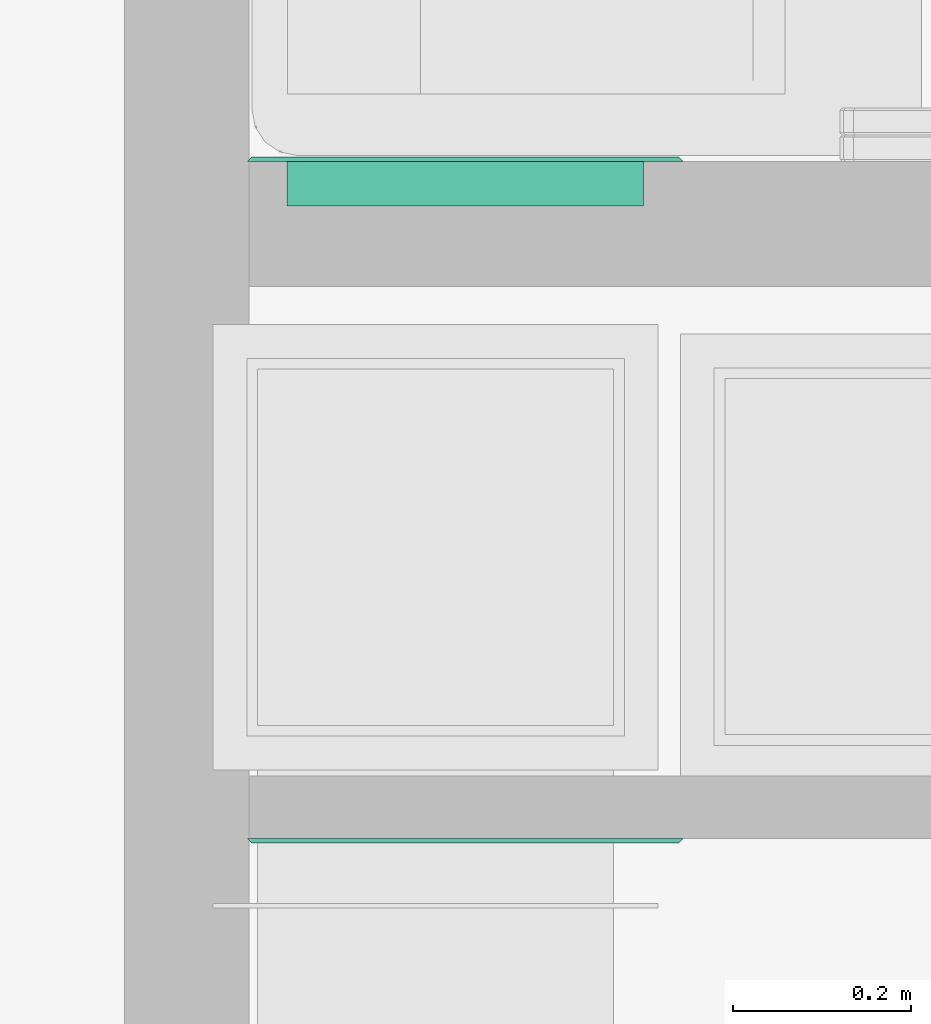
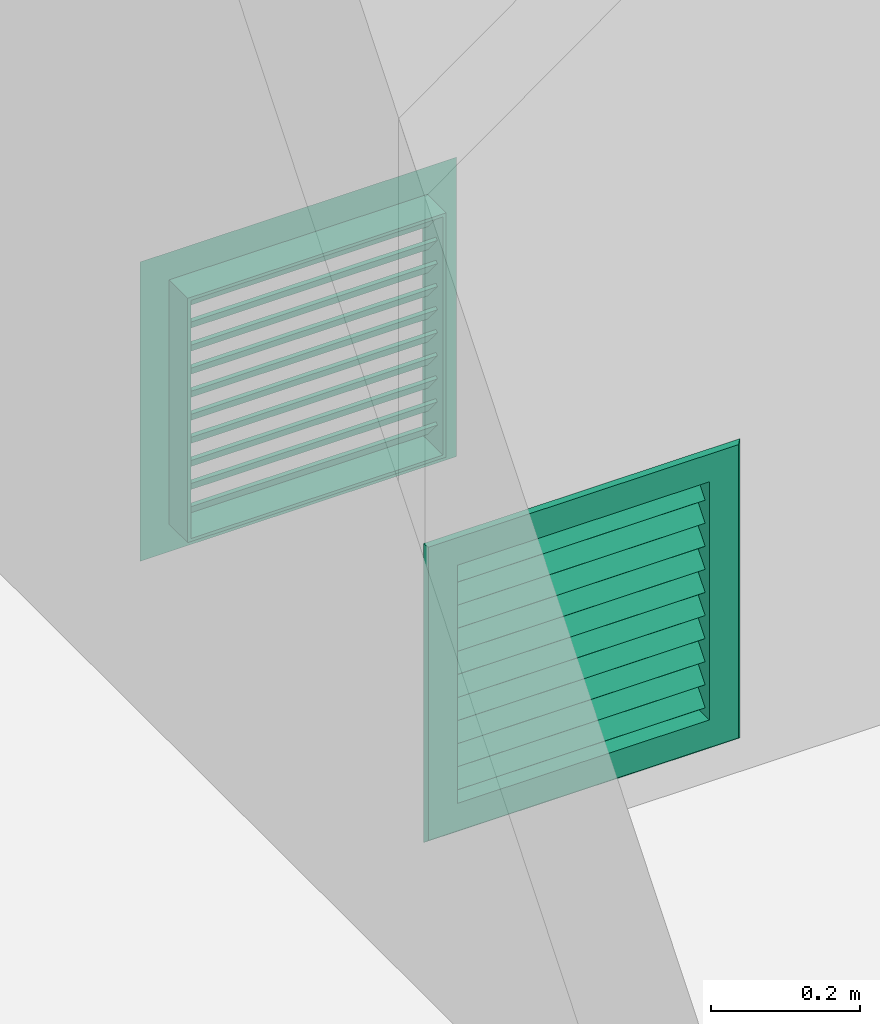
# One storey, part 21 of 31: 2 flow terminals.
"""IFC2X3 building model written with IfcOpenShell, lengths in millimetres."""

from ifc_helpers import new_model, entity, si_unit, converted_unit, derived_unit, direction, frame, origin, place, context, subcontext, project, spatial, faceted_brep, source, transform, mapped, material, material_list, type_object, type_shapes, element, save


model = new_model("IFC2X3")

# Units and contexts
model_context = context("Model", 3, precision=0.01, world=origin(), true_north=direction((6.123031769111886e-17, 1.0)))
body_context = subcontext(model_context, "Body", "Model", "MODEL_VIEW")
ifc_project = project(units=[si_unit("LENGTHUNIT", "METRE", prefix="MILLI"), si_unit("AREAUNIT", "SQUARE_METRE"), si_unit("VOLUMEUNIT", "CUBIC_METRE"), converted_unit("PLANEANGLEUNIT", "DEGREE", entity("IfcRatioMeasure", 0.017453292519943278), si_unit("PLANEANGLEUNIT", "RADIAN"), dimensions=[0, 0, 0, 0, 0, 0, 0]), si_unit("MASSUNIT", "GRAM", prefix="KILO"), derived_unit("MASSDENSITYUNIT", [(si_unit("MASSUNIT", "GRAM", prefix="KILO"), 1), (si_unit("LENGTHUNIT", "METRE"), -3)]), derived_unit("MOMENTOFINERTIAUNIT", [(si_unit("LENGTHUNIT", "METRE"), 4)]), si_unit("TIMEUNIT", "SECOND"), si_unit("FREQUENCYUNIT", "HERTZ"), si_unit("THERMODYNAMICTEMPERATUREUNIT", "DEGREE_CELSIUS"), derived_unit("THERMALTRANSMITTANCEUNIT", [(si_unit("MASSUNIT", "GRAM", prefix="KILO"), 1), (si_unit("THERMODYNAMICTEMPERATUREUNIT", "KELVIN"), -1), (si_unit("TIMEUNIT", "SECOND"), -3)]), derived_unit("VOLUMETRICFLOWRATEUNIT", [(si_unit("LENGTHUNIT", "METRE"), 3), (si_unit("TIMEUNIT", "SECOND"), -1)]), derived_unit("MASSFLOWRATEUNIT", [(si_unit("MASSUNIT", "GRAM", prefix="KILO"), 1), (si_unit("TIMEUNIT", "SECOND"), -1)]), derived_unit("ROTATIONALFREQUENCYUNIT", [(si_unit("TIMEUNIT", "SECOND"), -1)]), si_unit("ELECTRICCURRENTUNIT", "AMPERE"), si_unit("ELECTRICVOLTAGEUNIT", "VOLT"), si_unit("POWERUNIT", "WATT"), si_unit("FORCEUNIT", "NEWTON", prefix="KILO"), si_unit("ILLUMINANCEUNIT", "LUX"), si_unit("LUMINOUSFLUXUNIT", "LUMEN"), si_unit("LUMINOUSINTENSITYUNIT", "CANDELA"), derived_unit("USERDEFINED", [(si_unit("MASSUNIT", "GRAM", prefix="KILO"), -1), (si_unit("LENGTHUNIT", "METRE"), -2), (si_unit("TIMEUNIT", "SECOND"), 3), (si_unit("LUMINOUSFLUXUNIT", "LUMEN"), 1)]), derived_unit("SOUNDPOWERUNIT", [(si_unit("MASSUNIT", "GRAM", prefix="KILO"), 1), (si_unit("LENGTHUNIT", "METRE"), 2), (si_unit("TIMEUNIT", "SECOND"), -3)]), derived_unit("SOUNDPRESSUREUNIT", [(si_unit("MASSUNIT", "GRAM", prefix="KILO"), 1), (si_unit("LENGTHUNIT", "METRE"), -1), (si_unit("TIMEUNIT", "SECOND"), -2)]), derived_unit("LINEARVELOCITYUNIT", [(si_unit("LENGTHUNIT", "METRE"), 1), (si_unit("TIMEUNIT", "SECOND"), -1)]), si_unit("PRESSUREUNIT", "PASCAL"), derived_unit("USERDEFINED", [(si_unit("LENGTHUNIT", "METRE"), -2), (si_unit("MASSUNIT", "GRAM", prefix="KILO"), 1), (si_unit("TIMEUNIT", "SECOND"), -2)]), derived_unit("LINEARFORCEUNIT", [(si_unit("MASSUNIT", "GRAM", prefix="KILO"), 1), (si_unit("LENGTHUNIT", "METRE"), 1), (si_unit("TIMEUNIT", "SECOND"), -2), (si_unit("LENGTHUNIT", "METRE"), -1)]), derived_unit("PLANARFORCEUNIT", [(si_unit("MASSUNIT", "GRAM", prefix="KILO"), 1), (si_unit("LENGTHUNIT", "METRE"), 1), (si_unit("TIMEUNIT", "SECOND"), -2), (si_unit("LENGTHUNIT", "METRE"), -2)])], contexts=[model_context])

# Site, building, storey
site_placement = place(None, origin())
site = spatial("IfcSite", under=ifc_project, at=site_placement, Name="Default", CompositionType="ELEMENT")
building_placement = place(site_placement, origin())
building = spatial("IfcBuilding", under=site, at=building_placement, CompositionType="ELEMENT")
storey_placement = place(building_placement, frame((0.0, 0.0, 3880.0)))
storey = spatial("IfcBuildingStorey", under=building, at=storey_placement, Name="Niveau 1", CompositionType="ELEMENT", Elevation=3880.0)

# Flow terminals
ifc_material = material(Name="Acier - Galvanisé")
ifc_material_list_1 = material_list([ifc_material, ifc_material, ifc_material, ifc_material, ifc_material, ifc_material, ifc_material, ifc_material, ifc_material, ifc_material, ifc_material])
ifc_material_list_2 = material_list([ifc_material, ifc_material, ifc_material, ifc_material, ifc_material, ifc_material, ifc_material, ifc_material, ifc_material, ifc_material, ifc_material])
air_terminal_type_1 = type_object("IfcAirTerminalType", Name="Grille air neuf:400x400", PredefinedType="NOTDEFINED", material=ifc_material_list_2)
shared_shape_1 = source(origin(), body_context, "Body", "Brep", [
    faceted_brep([(440.11775653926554, 14.288495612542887, 128.53731204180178), (440.11775653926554, 40.0, 97.8955343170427), (440.11775653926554, 43.83022221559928, 101.10947236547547), (440.11775653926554, 18.11871782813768, 131.75125009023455), (50.117756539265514, 14.288495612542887, 128.53731204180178), (50.117756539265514, 18.11871782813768, 131.75125009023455), (50.117756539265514, 43.83022221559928, 101.10947236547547), (50.117756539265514, 40.0, 97.8955343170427)], [[[0, 1, 2, 3]], [[4, 5, 6, 7]], [[1, 0, 4, 7]], [[2, 1, 7, 6]], [[3, 2, 6, 5]], [[0, 3, 5, 4]]]),
    faceted_brep([(440.11775653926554, 14.288495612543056, 166.31508981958), (440.11775653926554, 40.0, 135.67331209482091), (440.11775653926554, 43.83022221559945, 138.88725014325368), (440.11775653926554, 18.118717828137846, 169.52902786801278), (50.117756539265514, 14.288495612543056, 166.31508981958), (50.117756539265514, 18.118717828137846, 169.52902786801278), (50.117756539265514, 43.83022221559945, 138.88725014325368), (50.117756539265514, 40.0, 135.67331209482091)], [[[0, 1, 2, 3]], [[4, 5, 6, 7]], [[1, 0, 4, 7]], [[2, 1, 7, 6]], [[3, 2, 6, 5]], [[0, 3, 5, 4]]]),
    faceted_brep([(440.11775653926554, 14.288495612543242, 204.0928675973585), (440.11775653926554, 40.0, 173.4510898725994), (440.11775653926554, 43.83022221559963, 176.66502792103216), (440.11775653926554, 18.118717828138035, 207.30680564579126), (50.117756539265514, 14.288495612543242, 204.0928675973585), (50.117756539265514, 18.118717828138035, 207.30680564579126), (50.117756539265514, 43.83022221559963, 176.66502792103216), (50.117756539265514, 40.0, 173.4510898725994)], [[[0, 1, 2, 3]], [[4, 5, 6, 7]], [[1, 0, 4, 7]], [[2, 1, 7, 6]], [[3, 2, 6, 5]], [[0, 3, 5, 4]]]),
    faceted_brep([(440.11775653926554, 14.288495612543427, 241.8706453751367), (440.11775653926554, 40.0, 211.22886765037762), (440.11775653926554, 43.83022221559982, 214.4428056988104), (440.11775653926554, 18.11871782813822, 245.08458342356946), (50.117756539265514, 14.288495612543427, 241.8706453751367), (50.117756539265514, 18.11871782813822, 245.08458342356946), (50.117756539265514, 43.83022221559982, 214.4428056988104), (50.117756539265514, 40.0, 211.22886765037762)], [[[0, 1, 2, 3]], [[4, 5, 6, 7]], [[1, 0, 4, 7]], [[2, 1, 7, 6]], [[3, 2, 6, 5]], [[0, 3, 5, 4]]]),
    faceted_brep([(440.11775653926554, 14.288495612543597, 279.6484231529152), (440.11775653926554, 40.0, 249.0066454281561), (440.11775653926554, 43.83022221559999, 252.22058347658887), (440.11775653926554, 18.11871782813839, 282.86236120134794), (50.117756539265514, 14.288495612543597, 279.6484231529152), (50.117756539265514, 18.11871782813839, 282.86236120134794), (50.117756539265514, 43.83022221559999, 252.22058347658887), (50.117756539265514, 40.0, 249.0066454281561)], [[[0, 1, 2, 3]], [[4, 5, 6, 7]], [[1, 0, 4, 7]], [[2, 1, 7, 6]], [[3, 2, 6, 5]], [[0, 3, 5, 4]]]),
    faceted_brep([(440.11775653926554, 14.288495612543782, 317.42620093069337), (440.11775653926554, 40.0, 286.78442320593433), (440.11775653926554, 43.83022221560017, 289.99836125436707), (440.11775653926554, 18.118717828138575, 320.64013897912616), (50.117756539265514, 14.288495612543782, 317.42620093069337), (50.117756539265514, 18.118717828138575, 320.64013897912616), (50.117756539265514, 43.83022221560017, 289.99836125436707), (50.117756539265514, 40.0, 286.78442320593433)], [[[0, 1, 2, 3]], [[4, 5, 6, 7]], [[1, 0, 4, 7]], [[2, 1, 7, 6]], [[3, 2, 6, 5]], [[0, 3, 5, 4]]]),
    faceted_brep([(440.11775653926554, 14.288495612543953, 355.2039787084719), (440.11775653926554, 40.0, 324.5622009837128), (440.11775653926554, 43.830222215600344, 327.7761390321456), (440.11775653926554, 18.118717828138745, 358.4179167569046), (50.117756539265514, 14.288495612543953, 355.2039787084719), (50.117756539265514, 18.118717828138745, 358.4179167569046), (50.117756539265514, 43.830222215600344, 327.7761390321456), (50.117756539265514, 40.0, 324.5622009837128)], [[[0, 1, 2, 3]], [[4, 5, 6, 7]], [[1, 0, 4, 7]], [[2, 1, 7, 6]], [[3, 2, 6, 5]], [[0, 3, 5, 4]]]),
    faceted_brep([(440.11775653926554, 14.28849561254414, 392.9817564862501), (440.11775653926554, 40.0, 362.339978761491), (440.11775653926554, 43.83022221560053, 365.5539168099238), (440.11775653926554, 18.11871782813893, 396.19569453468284), (50.117756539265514, 14.28849561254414, 392.9817564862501), (50.117756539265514, 18.11871782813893, 396.19569453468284), (50.117756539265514, 43.83022221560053, 365.5539168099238), (50.117756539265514, 40.0, 362.339978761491)], [[[0, 1, 2, 3]], [[4, 5, 6, 7]], [[1, 0, 4, 7]], [[2, 1, 7, 6]], [[3, 2, 6, 5]], [[0, 3, 5, 4]]]),
    faceted_brep([(440.11775653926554, 14.288495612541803, 90.7595342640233), (440.11775653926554, 40.0, 60.11775653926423), (440.11775653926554, 43.83022221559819, 63.33169458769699), (440.11775653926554, 18.118717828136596, 93.97347231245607), (50.117756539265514, 14.288495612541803, 90.7595342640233), (50.117756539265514, 18.118717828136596, 93.97347231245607), (50.117756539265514, 43.83022221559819, 63.33169458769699), (50.117756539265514, 40.0, 60.11775653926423)], [[[0, 1, 2, 3]], [[4, 5, 6, 7]], [[1, 0, 4, 7]], [[2, 1, 7, 6]], [[3, 2, 6, 5]], [[0, 3, 5, 4]]]),
    faceted_brep([(440.11775653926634, 14.288495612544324, 430.75953426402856), (440.11775653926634, 40.0, 400.1177565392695), (440.11775653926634, 43.83022221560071, 403.33169458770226), (440.11775653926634, 18.118717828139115, 433.97347231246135), (50.11775653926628, 14.288495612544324, 430.75953426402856), (50.11775653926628, 18.118717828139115, 433.97347231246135), (50.11775653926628, 43.83022221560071, 403.33169458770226), (50.11775653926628, 40.0, 400.1177565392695)], [[[0, 1, 2, 3]], [[4, 5, 6, 7]], [[1, 0, 4, 7]], [[2, 1, 7, 6]], [[3, 2, 6, 5]], [[0, 3, 5, 4]]]),
    faceted_brep([(45.11775653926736, 0.0, 445.11775653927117), (45.11775653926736, 50.0, 445.11775653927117), (45.11775653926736, 50.0, 45.11775653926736), (45.11775653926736, 0.0, 45.11775653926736), (50.11775653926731, 55.0, 440.1177565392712), (50.11775653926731, 0.0, 440.1177565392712), (50.11775653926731, 0.0, 50.11775653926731), (50.11775653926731, 55.0, 50.11775653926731), (0.0, 50.0, 490.23551307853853), (5.0, 55.0, 485.2355130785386), (5.0, 55.0, 5.0), (0.0, 50.0, 0.0), (445.1177565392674, 50.0, 45.11775653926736), (445.1177565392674, 0.0, 45.11775653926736), (440.1177565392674, 0.0, 50.11775653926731), (440.1177565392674, 55.0, 50.11775653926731), (485.23551307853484, 55.0, 5.0), (490.2355130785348, 50.0, 0.0), (445.1177565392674, 50.0, 445.11775653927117), (445.1177565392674, 0.0, 445.11775653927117), (440.1177565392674, 0.0, 440.1177565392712), (440.1177565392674, 55.0, 440.1177565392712), (485.23551307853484, 55.0, 485.2355130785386), (490.2355130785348, 50.0, 490.23551307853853)], [[[0, 1, 2, 3]], [[4, 5, 6, 7]], [[8, 9, 10, 11]], [[3, 2, 12, 13]], [[7, 6, 14, 15]], [[11, 10, 16, 17]], [[13, 12, 18, 19]], [[15, 14, 20, 21]], [[17, 16, 22, 23]], [[19, 18, 1, 0]], [[3, 13, 19, 0], [5, 20, 14, 6]], [[21, 20, 5, 4]], [[7, 15, 21, 4], [9, 22, 16, 10]], [[23, 22, 9, 8]], [[11, 17, 23, 8], [1, 18, 12, 2]]], outer=[[True], [True], [True], [True], [True], [True], [True], [True], [True], [True], [True, False], [True], [False, True], [True], [True, False]]),
])
type_shapes(air_terminal_type_1, [shared_shape_1])
flow_terminal_1_placement = place(storey_placement, frame((-6472.328168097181, -14180.0, 54.88224346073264)))
element("IfcFlowTerminal", 1, at=flow_terminal_1_placement, inside=storey, type_object=air_terminal_type_1, material=ifc_material_list_1, Name="Grille air neuf:400x400", ObjectType="Grille air neuf:400x400", context=body_context, shape_type="MappedRepresentation", body=[
    mapped(shared_shape_1, transform((0.0, 0.0, 0.0), scale=1.0)),
])
ifc_material_list_3 = material_list([ifc_material, ifc_material, ifc_material, ifc_material, ifc_material, ifc_material, ifc_material, ifc_material, ifc_material, ifc_material, ifc_material])
ifc_material_list_4 = material_list([ifc_material, ifc_material, ifc_material, ifc_material, ifc_material, ifc_material, ifc_material, ifc_material, ifc_material, ifc_material, ifc_material])
air_terminal_type_2 = type_object("IfcAirTerminalType", Name="Grille air neuf:400x400", PredefinedType="NOTDEFINED", material=ifc_material_list_4)
shared_shape_2 = source(origin(), body_context, "Body", "Brep", [
    faceted_brep([(440.1177565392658, 14.288495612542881, 128.53731204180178), (440.1177565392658, 40.0, 97.8955343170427), (440.1177565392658, 43.83022221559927, 101.10947236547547), (440.1177565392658, 18.118717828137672, 131.75125009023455), (50.11775653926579, 14.288495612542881, 128.53731204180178), (50.11775653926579, 18.118717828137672, 131.75125009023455), (50.11775653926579, 43.83022221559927, 101.10947236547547), (50.11775653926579, 40.0, 97.8955343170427)], [[[0, 1, 2, 3]], [[4, 5, 6, 7]], [[1, 0, 4, 7]], [[2, 1, 7, 6]], [[3, 2, 6, 5]], [[0, 3, 5, 4]]]),
    faceted_brep([(440.1177565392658, 14.288495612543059, 166.31508981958), (440.1177565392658, 40.0, 135.67331209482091), (440.1177565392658, 43.83022221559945, 138.88725014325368), (440.1177565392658, 18.11871782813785, 169.52902786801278), (50.11775653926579, 14.288495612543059, 166.31508981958), (50.11775653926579, 18.11871782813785, 169.52902786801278), (50.11775653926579, 43.83022221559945, 138.88725014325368), (50.11775653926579, 40.0, 135.67331209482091)], [[[0, 1, 2, 3]], [[4, 5, 6, 7]], [[1, 0, 4, 7]], [[2, 1, 7, 6]], [[3, 2, 6, 5]], [[0, 3, 5, 4]]]),
    faceted_brep([(440.1177565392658, 14.288495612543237, 204.0928675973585), (440.1177565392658, 40.0, 173.4510898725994), (440.1177565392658, 43.830222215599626, 176.66502792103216), (440.1177565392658, 18.118717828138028, 207.30680564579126), (50.11775653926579, 14.288495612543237, 204.0928675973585), (50.11775653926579, 18.118717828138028, 207.30680564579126), (50.11775653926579, 43.830222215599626, 176.66502792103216), (50.11775653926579, 40.0, 173.4510898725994)], [[[0, 1, 2, 3]], [[4, 5, 6, 7]], [[1, 0, 4, 7]], [[2, 1, 7, 6]], [[3, 2, 6, 5]], [[0, 3, 5, 4]]]),
    faceted_brep([(440.1177565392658, 14.288495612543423, 241.8706453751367), (440.1177565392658, 40.0, 211.22886765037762), (440.1177565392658, 43.83022221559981, 214.4428056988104), (440.1177565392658, 18.118717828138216, 245.08458342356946), (50.11775653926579, 14.288495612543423, 241.8706453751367), (50.11775653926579, 18.118717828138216, 245.08458342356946), (50.11775653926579, 43.83022221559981, 214.4428056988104), (50.11775653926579, 40.0, 211.22886765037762)], [[[0, 1, 2, 3]], [[4, 5, 6, 7]], [[1, 0, 4, 7]], [[2, 1, 7, 6]], [[3, 2, 6, 5]], [[0, 3, 5, 4]]]),
    faceted_brep([(440.1177565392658, 14.288495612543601, 279.6484231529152), (440.1177565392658, 40.0, 249.0066454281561), (440.1177565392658, 43.83022221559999, 252.22058347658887), (440.1177565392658, 18.118717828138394, 282.86236120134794), (50.11775653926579, 14.288495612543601, 279.6484231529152), (50.11775653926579, 18.118717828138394, 282.86236120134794), (50.11775653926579, 43.83022221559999, 252.22058347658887), (50.11775653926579, 40.0, 249.0066454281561)], [[[0, 1, 2, 3]], [[4, 5, 6, 7]], [[1, 0, 4, 7]], [[2, 1, 7, 6]], [[3, 2, 6, 5]], [[0, 3, 5, 4]]]),
    faceted_brep([(440.1177565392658, 14.288495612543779, 317.42620093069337), (440.1177565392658, 40.0, 286.78442320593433), (440.1177565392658, 43.830222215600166, 289.99836125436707), (440.1177565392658, 18.11871782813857, 320.64013897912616), (50.11775653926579, 14.288495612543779, 317.42620093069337), (50.11775653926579, 18.11871782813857, 320.64013897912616), (50.11775653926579, 43.830222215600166, 289.99836125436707), (50.11775653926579, 40.0, 286.78442320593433)], [[[0, 1, 2, 3]], [[4, 5, 6, 7]], [[1, 0, 4, 7]], [[2, 1, 7, 6]], [[3, 2, 6, 5]], [[0, 3, 5, 4]]]),
    faceted_brep([(440.1177565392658, 14.288495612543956, 355.2039787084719), (440.1177565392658, 40.0, 324.5622009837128), (440.1177565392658, 43.830222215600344, 327.7761390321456), (440.1177565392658, 18.11871782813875, 358.4179167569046), (50.11775653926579, 14.288495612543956, 355.2039787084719), (50.11775653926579, 18.11871782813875, 358.4179167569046), (50.11775653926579, 43.830222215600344, 327.7761390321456), (50.11775653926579, 40.0, 324.5622009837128)], [[[0, 1, 2, 3]], [[4, 5, 6, 7]], [[1, 0, 4, 7]], [[2, 1, 7, 6]], [[3, 2, 6, 5]], [[0, 3, 5, 4]]]),
    faceted_brep([(440.1177565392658, 14.288495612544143, 392.9817564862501), (440.1177565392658, 40.0, 362.339978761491), (440.1177565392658, 43.83022221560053, 365.5539168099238), (440.1177565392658, 18.118717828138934, 396.19569453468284), (50.11775653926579, 14.288495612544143, 392.9817564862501), (50.11775653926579, 18.118717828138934, 396.19569453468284), (50.11775653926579, 43.83022221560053, 365.5539168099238), (50.11775653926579, 40.0, 362.339978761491)], [[[0, 1, 2, 3]], [[4, 5, 6, 7]], [[1, 0, 4, 7]], [[2, 1, 7, 6]], [[3, 2, 6, 5]], [[0, 3, 5, 4]]]),
    faceted_brep([(440.1177565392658, 14.2884956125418, 90.7595342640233), (440.1177565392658, 40.0, 60.11775653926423), (440.1177565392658, 43.830222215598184, 63.33169458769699), (440.1177565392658, 18.118717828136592, 93.97347231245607), (50.11775653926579, 14.2884956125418, 90.7595342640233), (50.11775653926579, 18.118717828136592, 93.97347231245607), (50.11775653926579, 43.830222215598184, 63.33169458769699), (50.11775653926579, 40.0, 60.11775653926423)], [[[0, 1, 2, 3]], [[4, 5, 6, 7]], [[1, 0, 4, 7]], [[2, 1, 7, 6]], [[3, 2, 6, 5]], [[0, 3, 5, 4]]]),
    faceted_brep([(440.1177565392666, 14.28849561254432, 430.75953426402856), (440.1177565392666, 40.0, 400.1177565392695), (440.1177565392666, 43.830222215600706, 403.33169458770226), (440.1177565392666, 18.11871782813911, 433.97347231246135), (50.11775653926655, 14.28849561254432, 430.75953426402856), (50.11775653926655, 18.11871782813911, 433.97347231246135), (50.11775653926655, 43.830222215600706, 403.33169458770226), (50.11775653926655, 40.0, 400.1177565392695)], [[[0, 1, 2, 3]], [[4, 5, 6, 7]], [[1, 0, 4, 7]], [[2, 1, 7, 6]], [[3, 2, 6, 5]], [[0, 3, 5, 4]]]),
    faceted_brep([(45.11775653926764, 0.0, 445.11775653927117), (45.11775653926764, 50.0, 445.1177565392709), (45.11775653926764, 50.0, 45.11775653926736), (45.11775653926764, 0.0, 45.11775653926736), (50.11775653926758, 55.0, 440.1177565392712), (50.11775653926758, 0.0, 440.11775653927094), (50.11775653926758, 0.0, 50.11775653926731), (50.11775653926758, 55.0, 50.11775653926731), (0.0, 50.0, 490.23551307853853), (5.0, 55.0, 485.2355130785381), (5.0, 55.0, 5.0), (0.0, 50.0, 0.0), (445.11775653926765, 50.0, 45.11775653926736), (445.11775653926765, 0.0, 45.11775653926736), (440.1177565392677, 0.0, 50.11775653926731), (440.1177565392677, 55.0, 50.11775653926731), (485.23551307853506, 55.0, 5.0), (490.235513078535, 50.0, 0.0), (445.11775653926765, 50.0, 445.11775653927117), (445.11775653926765, 0.0, 445.11775653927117), (440.1177565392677, 0.0, 440.1177565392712), (440.1177565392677, 55.0, 440.1177565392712), (485.23551307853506, 55.0, 485.2355130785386), (490.235513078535, 50.0, 490.23551307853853)], [[[0, 1, 2, 3]], [[4, 5, 6, 7]], [[8, 9, 10, 11]], [[3, 2, 12, 13]], [[7, 6, 14, 15]], [[11, 10, 16, 17]], [[13, 12, 18, 19]], [[15, 14, 20, 21]], [[17, 16, 22, 23]], [[19, 18, 1, 0]], [[3, 13, 19, 0], [5, 20, 14, 6]], [[21, 20, 5, 4]], [[7, 15, 21, 4], [9, 22, 16, 10]], [[23, 22, 9, 8]], [[11, 17, 23, 8], [1, 18, 12, 2]]], outer=[[True], [True], [True], [True], [True], [True], [True], [True], [True], [True], [True, False], [True], [False, True], [True], [True, False]]),
])
type_shapes(air_terminal_type_2, [shared_shape_2])
flow_terminal_2_placement = place(storey_placement, frame((-5982.0926550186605, -14840.0, 54.88224346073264), z_axis=(0.0, 0.0, 1.0), x_axis=(-1.0, 0.0, 0.0)))
element("IfcFlowTerminal", 2, at=flow_terminal_2_placement, inside=storey, type_object=air_terminal_type_2, material=ifc_material_list_3, Name="Grille air neuf:400x400", ObjectType="Grille air neuf:400x400", context=body_context, shape_type="MappedRepresentation", body=[
    mapped(shared_shape_2, transform((0.0, 0.0, 0.0), scale=1.0)),
])

save(model, "model.ifc")
